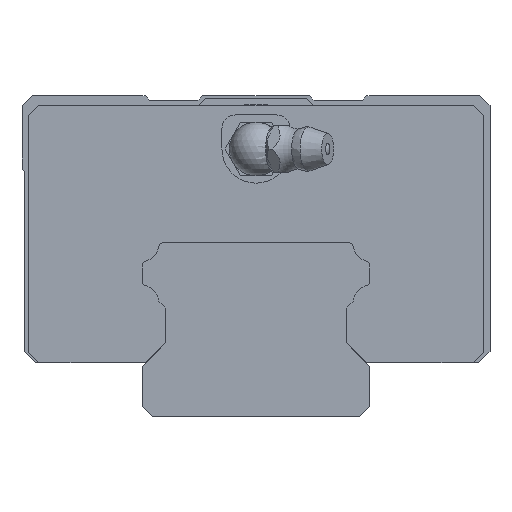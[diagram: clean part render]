
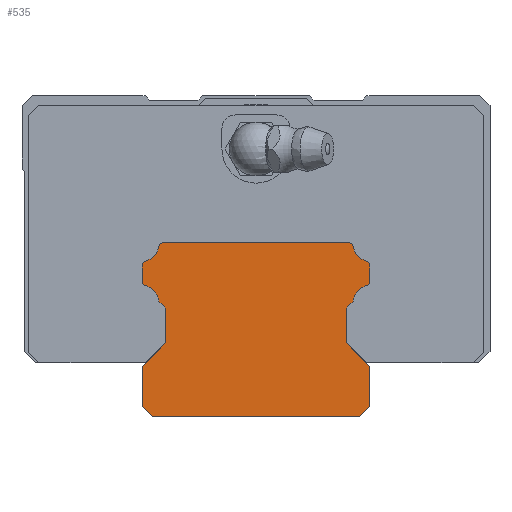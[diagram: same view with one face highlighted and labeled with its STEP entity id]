
A CAD part, front view. The second image highlights one B-rep face of the part: STEP entity #535.
In plain terms, the highlighted planar face has unit normal (0, -1, 0).
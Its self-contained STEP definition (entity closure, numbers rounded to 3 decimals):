
#404=FACE_OUTER_BOUND('',#1535,.T.);
#535=ADVANCED_FACE('',(#404),#712,.T.);
#712=PLANE('',#3502);
#806=LINE('',#4655,#1084);
#810=LINE('',#4692,#1088);
#814=LINE('',#4705,#1092);
#820=LINE('',#4726,#1098);
#823=LINE('',#4732,#1101);
#826=LINE('',#4738,#1104);
#829=LINE('',#4744,#1107);
#832=LINE('',#4750,#1110);
#834=LINE('',#4753,#1112);
#837=LINE('',#4759,#1115);
#840=LINE('',#4765,#1118);
#843=LINE('',#4771,#1121);
#846=LINE('',#4777,#1124);
#851=LINE('',#4795,#1129);
#1084=VECTOR('',#3754,1.);
#1088=VECTOR('',#3792,1.);
#1092=VECTOR('',#3802,1.);
#1098=VECTOR('',#3822,1.);
#1101=VECTOR('',#3827,1.);
#1104=VECTOR('',#3832,1.);
#1107=VECTOR('',#3837,1.);
#1110=VECTOR('',#3842,1.);
#1112=VECTOR('',#3846,1.);
#1115=VECTOR('',#3851,1.);
#1118=VECTOR('',#3856,1.);
#1121=VECTOR('',#3861,1.);
#1124=VECTOR('',#3866,1.);
#1129=VECTOR('',#3885,1.);
#1535=EDGE_LOOP('',(#1883,#1884,#1885,#1886,#1887,#1888,#1889,#1890,#1891,
#1892,#1893,#1894,#1895,#1896,#1897,#1898,#1899,#1900,#1901,#1902,#1903,
#1904,#1905,#1906));
#1883=ORIENTED_EDGE('',*,*,#2915,.T.);
#1884=ORIENTED_EDGE('',*,*,#2919,.T.);
#1885=ORIENTED_EDGE('',*,*,#2922,.T.);
#1886=ORIENTED_EDGE('',*,*,#2925,.T.);
#1887=ORIENTED_EDGE('',*,*,#2928,.T.);
#1888=ORIENTED_EDGE('',*,*,#2931,.T.);
#1889=ORIENTED_EDGE('',*,*,#2934,.T.);
#1890=ORIENTED_EDGE('',*,*,#2937,.T.);
#1891=ORIENTED_EDGE('',*,*,#2893,.T.);
#1892=ORIENTED_EDGE('',*,*,#2939,.T.);
#1893=ORIENTED_EDGE('',*,*,#2942,.T.);
#1894=ORIENTED_EDGE('',*,*,#2945,.T.);
#1895=ORIENTED_EDGE('',*,*,#2948,.T.);
#1896=ORIENTED_EDGE('',*,*,#2951,.T.);
#1897=ORIENTED_EDGE('',*,*,#2954,.T.);
#1898=ORIENTED_EDGE('',*,*,#2957,.T.);
#1899=ORIENTED_EDGE('',*,*,#2960,.T.);
#1900=ORIENTED_EDGE('',*,*,#2963,.T.);
#1901=ORIENTED_EDGE('',*,*,#2966,.T.);
#1902=ORIENTED_EDGE('',*,*,#2969,.T.);
#1903=ORIENTED_EDGE('',*,*,#2909,.T.);
#1904=ORIENTED_EDGE('',*,*,#2971,.T.);
#1905=ORIENTED_EDGE('',*,*,#2974,.T.);
#1906=ORIENTED_EDGE('',*,*,#2977,.T.);
#2591=VERTEX_POINT('',#4656);
#2592=VERTEX_POINT('',#4657);
#2607=VERTEX_POINT('',#4693);
#2608=VERTEX_POINT('',#4694);
#2613=VERTEX_POINT('',#4706);
#2614=VERTEX_POINT('',#4707);
#2617=VERTEX_POINT('',#4715);
#2619=VERTEX_POINT('',#4721);
#2621=VERTEX_POINT('',#4727);
#2623=VERTEX_POINT('',#4733);
#2625=VERTEX_POINT('',#4739);
#2627=VERTEX_POINT('',#4745);
#2629=VERTEX_POINT('',#4754);
#2631=VERTEX_POINT('',#4760);
#2633=VERTEX_POINT('',#4766);
#2635=VERTEX_POINT('',#4772);
#2637=VERTEX_POINT('',#4778);
#2639=VERTEX_POINT('',#4784);
#2641=VERTEX_POINT('',#4790);
#2643=VERTEX_POINT('',#4796);
#2645=VERTEX_POINT('',#4802);
#2647=VERTEX_POINT('',#4808);
#2649=VERTEX_POINT('',#4817);
#2651=VERTEX_POINT('',#4823);
#2893=EDGE_CURVE('',#2591,#2592,#806,.T.);
#2909=EDGE_CURVE('',#2607,#2608,#810,.T.);
#2915=EDGE_CURVE('',#2613,#2614,#814,.T.);
#2919=EDGE_CURVE('',#2614,#2617,#3328,.T.);
#2922=EDGE_CURVE('',#2617,#2619,#3330,.T.);
#2925=EDGE_CURVE('',#2619,#2621,#820,.T.);
#2928=EDGE_CURVE('',#2621,#2623,#823,.T.);
#2931=EDGE_CURVE('',#2623,#2625,#826,.T.);
#2934=EDGE_CURVE('',#2625,#2627,#829,.T.);
#2937=EDGE_CURVE('',#2627,#2591,#832,.T.);
#2939=EDGE_CURVE('',#2592,#2629,#834,.T.);
#2942=EDGE_CURVE('',#2629,#2631,#837,.T.);
#2945=EDGE_CURVE('',#2631,#2633,#840,.T.);
#2948=EDGE_CURVE('',#2633,#2635,#843,.T.);
#2951=EDGE_CURVE('',#2635,#2637,#846,.T.);
#2954=EDGE_CURVE('',#2637,#2639,#3332,.T.);
#2957=EDGE_CURVE('',#2639,#2641,#3334,.T.);
#2960=EDGE_CURVE('',#2641,#2643,#851,.T.);
#2963=EDGE_CURVE('',#2643,#2645,#3336,.T.);
#2966=EDGE_CURVE('',#2645,#2647,#3338,.T.);
#2969=EDGE_CURVE('',#2647,#2607,#3340,.T.);
#2971=EDGE_CURVE('',#2608,#2649,#3342,.T.);
#2974=EDGE_CURVE('',#2649,#2651,#3344,.T.);
#2977=EDGE_CURVE('',#2651,#2613,#3346,.T.);
#3328=CIRCLE('',#3460,0.8);
#3330=CIRCLE('',#3463,2.6);
#3332=CIRCLE('',#3476,2.6);
#3334=CIRCLE('',#3479,0.8);
#3336=CIRCLE('',#3483,0.8);
#3338=CIRCLE('',#3486,2.6);
#3340=CIRCLE('',#3489,0.8);
#3342=CIRCLE('',#3492,0.8);
#3344=CIRCLE('',#3495,2.6);
#3346=CIRCLE('',#3498,0.8);
#3460=AXIS2_PLACEMENT_3D('',#4714,#3808,#3809);
#3463=AXIS2_PLACEMENT_3D('',#4720,#3815,#3816);
#3476=AXIS2_PLACEMENT_3D('',#4783,#3871,#3872);
#3479=AXIS2_PLACEMENT_3D('',#4789,#3878,#3879);
#3483=AXIS2_PLACEMENT_3D('',#4801,#3890,#3891);
#3486=AXIS2_PLACEMENT_3D('',#4807,#3897,#3898);
#3489=AXIS2_PLACEMENT_3D('',#4813,#3904,#3905);
#3492=AXIS2_PLACEMENT_3D('',#4816,#3910,#3911);
#3495=AXIS2_PLACEMENT_3D('',#4822,#3917,#3918);
#3498=AXIS2_PLACEMENT_3D('',#4828,#3924,#3925);
#3502=AXIS2_PLACEMENT_3D('',#4832,#3932,#3933);
#3754=DIRECTION('',(1.,0.,0.));
#3792=DIRECTION('',(-1.,0.,0.));
#3802=DIRECTION('',(0.,0.,-1.));
#3808=DIRECTION('',(0.,-1.,0.));
#3809=DIRECTION('',(1.,0.,0.));
#3815=DIRECTION('',(0.,1.,0.));
#3816=DIRECTION('',(1.,0.,0.));
#3822=DIRECTION('',(0.707,0.,-0.707));
#3827=DIRECTION('',(0.,0.,-1.));
#3832=DIRECTION('',(-0.707,0.,-0.707));
#3837=DIRECTION('',(0.,0.,-1.));
#3842=DIRECTION('',(0.707,0.,-0.707));
#3846=DIRECTION('',(0.707,0.,0.707));
#3851=DIRECTION('',(0.,0.,1.));
#3856=DIRECTION('',(-0.707,0.,0.707));
#3861=DIRECTION('',(0.,0.,1.));
#3866=DIRECTION('',(0.707,0.,0.707));
#3871=DIRECTION('',(0.,1.,0.));
#3872=DIRECTION('',(1.,0.,0.));
#3878=DIRECTION('',(0.,-1.,0.));
#3879=DIRECTION('',(1.,0.,0.));
#3885=DIRECTION('',(0.,0.,1.));
#3890=DIRECTION('',(0.,-1.,0.));
#3891=DIRECTION('',(1.,0.,0.));
#3897=DIRECTION('',(0.,1.,0.));
#3898=DIRECTION('',(1.,0.,0.));
#3904=DIRECTION('',(0.,-1.,0.));
#3905=DIRECTION('',(1.,0.,0.));
#3910=DIRECTION('',(0.,-1.,0.));
#3911=DIRECTION('',(1.,0.,0.));
#3917=DIRECTION('',(0.,1.,0.));
#3918=DIRECTION('',(1.,0.,0.));
#3924=DIRECTION('',(0.,-1.,0.));
#3925=DIRECTION('',(1.,0.,0.));
#3932=DIRECTION('',(0.,-1.,0.));
#3933=DIRECTION('',(0.,0.,-1.));
#4655=CARTESIAN_POINT('',(-15.5,-95.,0.));
#4656=CARTESIAN_POINT('',(-15.5,-95.,0.));
#4657=CARTESIAN_POINT('',(15.5,-95.,0.));
#4692=CARTESIAN_POINT('',(13.785,-95.,26.));
#4693=CARTESIAN_POINT('',(13.785,-95.,26.));
#4694=CARTESIAN_POINT('',(-13.785,-95.,26.));
#4705=CARTESIAN_POINT('',(-17.,-95.,22.517));
#4706=CARTESIAN_POINT('',(-17.,-95.,22.517));
#4707=CARTESIAN_POINT('',(-17.,-95.,20.283));
#4714=CARTESIAN_POINT('',(-16.2,-95.,20.283));
#4715=CARTESIAN_POINT('',(-16.42,-95.,19.514));
#4720=CARTESIAN_POINT('',(-17.134,-95.,17.014));
#4721=CARTESIAN_POINT('',(-14.545,-95.,17.245));
#4726=CARTESIAN_POINT('',(-14.545,-95.,17.245));
#4727=CARTESIAN_POINT('',(-13.5,-95.,16.2));
#4732=CARTESIAN_POINT('',(-13.5,-95.,16.2));
#4733=CARTESIAN_POINT('',(-13.5,-95.,11.));
#4738=CARTESIAN_POINT('',(-13.5,-95.,11.));
#4739=CARTESIAN_POINT('',(-17.,-95.,7.5));
#4744=CARTESIAN_POINT('',(-17.,-95.,7.5));
#4745=CARTESIAN_POINT('',(-17.,-95.,1.5));
#4750=CARTESIAN_POINT('',(-17.,-95.,1.5));
#4753=CARTESIAN_POINT('',(15.5,-95.,0.));
#4754=CARTESIAN_POINT('',(17.,-95.,1.5));
#4759=CARTESIAN_POINT('',(17.,-95.,1.5));
#4760=CARTESIAN_POINT('',(17.,-95.,7.5));
#4765=CARTESIAN_POINT('',(17.,-95.,7.5));
#4766=CARTESIAN_POINT('',(13.5,-95.,11.));
#4771=CARTESIAN_POINT('',(13.5,-95.,11.));
#4772=CARTESIAN_POINT('',(13.5,-95.,16.2));
#4777=CARTESIAN_POINT('',(13.5,-95.,16.2));
#4778=CARTESIAN_POINT('',(14.545,-95.,17.245));
#4783=CARTESIAN_POINT('',(17.134,-95.,17.014));
#4784=CARTESIAN_POINT('',(16.42,-95.,19.514));
#4789=CARTESIAN_POINT('',(16.2,-95.,20.283));
#4790=CARTESIAN_POINT('',(17.,-95.,20.283));
#4795=CARTESIAN_POINT('',(17.,-95.,20.283));
#4796=CARTESIAN_POINT('',(17.,-95.,22.517));
#4801=CARTESIAN_POINT('',(16.2,-95.,22.517));
#4802=CARTESIAN_POINT('',(16.42,-95.,23.286));
#4807=CARTESIAN_POINT('',(17.134,-95.,25.786));
#4808=CARTESIAN_POINT('',(14.573,-95.,25.338));
#4813=CARTESIAN_POINT('',(13.785,-95.,25.2));
#4816=CARTESIAN_POINT('',(-13.785,-95.,25.2));
#4817=CARTESIAN_POINT('',(-14.573,-95.,25.338));
#4822=CARTESIAN_POINT('',(-17.134,-95.,25.786));
#4823=CARTESIAN_POINT('',(-16.42,-95.,23.286));
#4828=CARTESIAN_POINT('',(-16.2,-95.,22.517));
#4832=CARTESIAN_POINT('',(-16.2,-95.,20.283));
